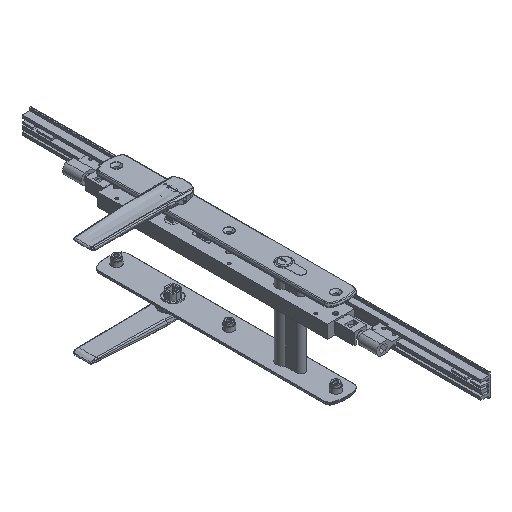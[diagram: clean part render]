
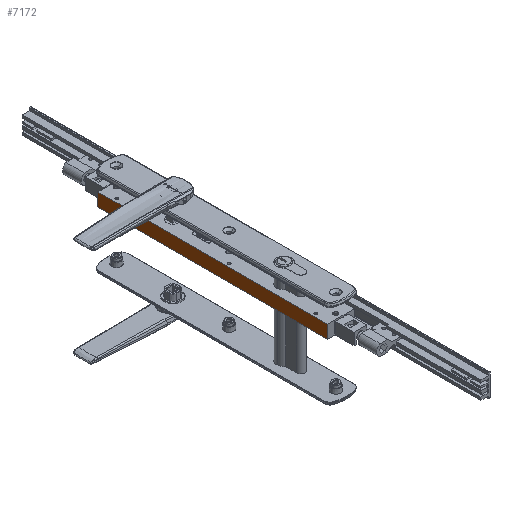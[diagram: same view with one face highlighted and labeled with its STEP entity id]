
A CAD part, isometric view. The second image highlights one B-rep face of the part: STEP entity #7172.
In plain terms, the highlighted planar face has unit normal (-1, 0, 0) as drawn and (1, 0, 0) by its records, which use the part's own axes.
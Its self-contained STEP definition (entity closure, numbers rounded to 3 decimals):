
#533 = EDGE_CURVE ( 'NONE', #9532, #26512, #24142, .T. ) ;
#1708 = DIRECTION ( 'NONE',  ( 0., -1., 0. ) ) ;
#1830 = ORIENTED_EDGE ( 'NONE', *, *, #43784, .F. ) ;
#7172 = ADVANCED_FACE ( 'NONE', ( #30072 ), #42395, .F. ) ;
#8925 = ORIENTED_EDGE ( 'NONE', *, *, #52108, .T. ) ;
#9532 = VERTEX_POINT ( 'NONE', #14504 ) ;
#14504 = CARTESIAN_POINT ( 'NONE',  ( 16., -199.25, 7.75 ) ) ;
#15172 = DIRECTION ( 'NONE',  ( 0., 0., -1. ) ) ;
#19754 = VERTEX_POINT ( 'NONE', #27046 ) ;
#21114 = DIRECTION ( 'NONE',  ( 0., 0., -1. ) ) ;
#21674 = EDGE_CURVE ( 'NONE', #9532, #19754, #35790, .T. ) ;
#22045 = CARTESIAN_POINT ( 'NONE',  ( 16., 72.75, 7.75 ) ) ;
#23671 = CARTESIAN_POINT ( 'NONE',  ( 16., 72.75, -7.75 ) ) ;
#24142 = LINE ( 'NONE', #44765, #38136 ) ;
#26512 = VERTEX_POINT ( 'NONE', #39282 ) ;
#27046 = CARTESIAN_POINT ( 'NONE',  ( 16., -199.25, -7.75 ) ) ;
#29668 = LINE ( 'NONE', #41216, #47573 ) ;
#30072 = FACE_OUTER_BOUND ( 'NONE', #35283, .T. ) ;
#31072 = VECTOR ( 'NONE', #47820, 1000. ) ;
#31155 = ORIENTED_EDGE ( 'NONE', *, *, #21674, .T. ) ;
#32042 = VERTEX_POINT ( 'NONE', #23671 ) ;
#34596 = AXIS2_PLACEMENT_3D ( 'NONE', #22045, #38386, #1708 ) ;
#35283 = EDGE_LOOP ( 'NONE', ( #8925, #1830, #52523, #31155 ) ) ;
#35500 = CARTESIAN_POINT ( 'NONE',  ( 16., 72.75, -7.75 ) ) ;
#35790 = LINE ( 'NONE', #43801, #51382 ) ;
#38136 = VECTOR ( 'NONE', #40496, 1000. ) ;
#38386 = DIRECTION ( 'NONE',  ( -1., 0., 0. ) ) ;
#39282 = CARTESIAN_POINT ( 'NONE',  ( 16., 72.75, 7.75 ) ) ;
#40496 = DIRECTION ( 'NONE',  ( 0., 1., 0. ) ) ;
#41216 = CARTESIAN_POINT ( 'NONE',  ( 16., 72.75, 7.75 ) ) ;
#42395 = PLANE ( 'NONE',  #34596 ) ;
#43784 = EDGE_CURVE ( 'NONE', #26512, #32042, #29668, .T. ) ;
#43801 = CARTESIAN_POINT ( 'NONE',  ( 16., -199.25, 7.75 ) ) ;
#44765 = CARTESIAN_POINT ( 'NONE',  ( 16., 72.75, 7.75 ) ) ;
#47573 = VECTOR ( 'NONE', #21114, 1000. ) ;
#47820 = DIRECTION ( 'NONE',  ( 0., 1., 0. ) ) ;
#48351 = LINE ( 'NONE', #35500, #31072 ) ;
#51382 = VECTOR ( 'NONE', #15172, 1000. ) ;
#52108 = EDGE_CURVE ( 'NONE', #19754, #32042, #48351, .T. ) ;
#52523 = ORIENTED_EDGE ( 'NONE', *, *, #533, .F. ) ;
